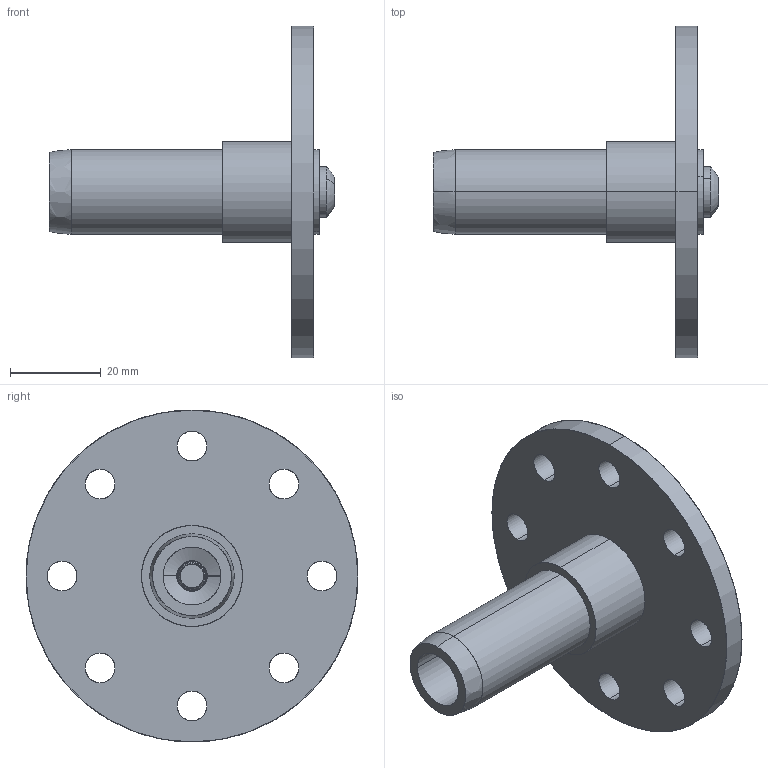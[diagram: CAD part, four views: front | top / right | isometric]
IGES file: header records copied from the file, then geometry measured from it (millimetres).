
Start section: SolidWorks IGES file using analytic representation for surfaces
Global section: file name: \\SERVER3\Design\_New Design Drive Folder List\_Design Vault\AAI\Modular Round Tube Connectors\Solidworks Models\STP Files\12202013\0.750 Inch Modular Connectors\Assemblies\0.75 Inch 8 Hole Keyed Disc Kit.IGS; native system: SolidWorks 2013; preprocessor: SolidWorks 2013; author: tbraun; date: 140109.103351; units: inch
Bounding box: 62.73 x 73.03 x 73.03 mm (x, y, z)
Surface area: 17331.3 mm2 (no closed solid volume)
Topology: 0 solids, 0 shells, 231 faces, 3285 edges, 3285 vertices
Faces by surface type: revolution 183, bspline 48
